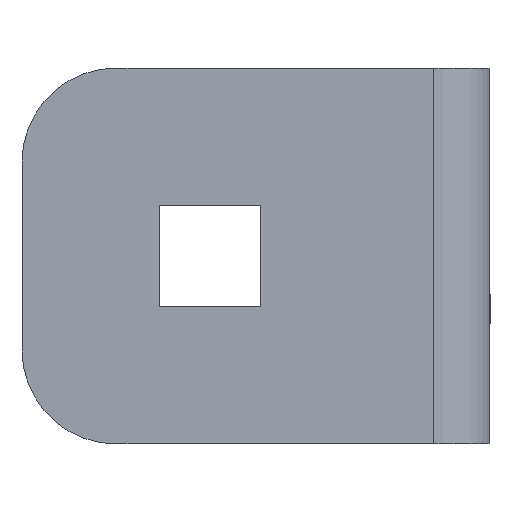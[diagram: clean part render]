
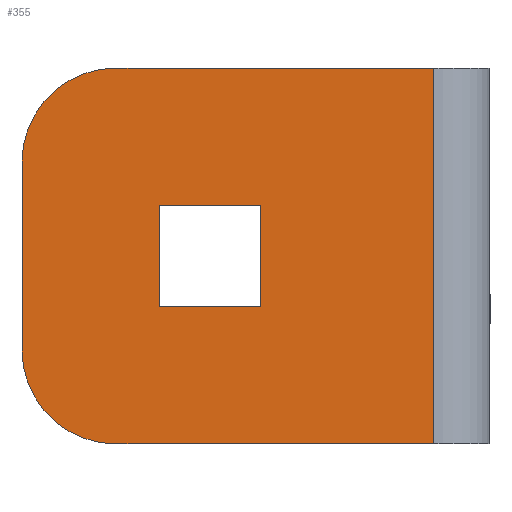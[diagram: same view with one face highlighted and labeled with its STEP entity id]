
A CAD part, front view. The second image highlights one B-rep face of the part: STEP entity #355.
In plain terms, the highlighted planar face has unit normal (0, -1, 0).
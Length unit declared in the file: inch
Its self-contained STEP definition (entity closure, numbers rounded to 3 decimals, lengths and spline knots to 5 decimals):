
#93 = ORIENTED_EDGE ( 'NONE', *, *, #243, .T. ) ;
#94 = EDGE_CURVE ( 'NONE', #142, #143, #2522, .T. ) ;
#95 = EDGE_LOOP ( 'NONE', ( #98, #99, #93, #395, #234, #132 ) ) ;
#96 = ORIENTED_EDGE ( 'NONE', *, *, #97, .F. ) ;
#97 = EDGE_CURVE ( 'NONE', #143, #349, #2532, .T. ) ;
#98 = ORIENTED_EDGE ( 'NONE', *, *, #106, .T. ) ;
#99 = ORIENTED_EDGE ( 'NONE', *, *, #100, .T. ) ;
#100 = EDGE_CURVE ( 'NONE', #237, #101, #2377, .T. ) ;
#101 = VERTEX_POINT ( 'NONE', #2398 ) ;
#105 = ORIENTED_EDGE ( 'NONE', *, *, #351, .F. ) ;
#106 = EDGE_CURVE ( 'NONE', #236, #237, #2536, .T. ) ;
#110 = EDGE_CURVE ( 'NONE', #235, #344, #2443, .T. ) ;
#132 = ORIENTED_EDGE ( 'NONE', *, *, #133, .T. ) ;
#133 = EDGE_CURVE ( 'NONE', #235, #236, #2395, .T. ) ;
#142 = VERTEX_POINT ( 'NONE', #2506 ) ;
#143 = VERTEX_POINT ( 'NONE', #2542 ) ;
#144 = ORIENTED_EDGE ( 'NONE', *, *, #94, .F. ) ;
#234 = ORIENTED_EDGE ( 'NONE', *, *, #110, .F. ) ;
#235 = VERTEX_POINT ( 'NONE', #1107 ) ;
#236 = VERTEX_POINT ( 'NONE', #1045 ) ;
#237 = VERTEX_POINT ( 'NONE', #1077 ) ;
#243 = EDGE_CURVE ( 'NONE', #101, #244, #1040, .T. ) ;
#244 = VERTEX_POINT ( 'NONE', #1145 ) ;
#343 = EDGE_CURVE ( 'NONE', #344, #244, #1259, .T. ) ;
#344 = VERTEX_POINT ( 'NONE', #1194 ) ;
#348 = EDGE_CURVE ( 'NONE', #349, #353, #1201, .T. ) ;
#349 = VERTEX_POINT ( 'NONE', #1318 ) ;
#351 = EDGE_CURVE ( 'NONE', #353, #142, #1267, .T. ) ;
#352 = ORIENTED_EDGE ( 'NONE', *, *, #348, .F. ) ;
#353 = VERTEX_POINT ( 'NONE', #1315 ) ;
#355 = ADVANCED_FACE ( 'NONE', ( #1320, #1319 ), #1211, .F. ) ;
#356 = EDGE_LOOP ( 'NONE', ( #105, #352, #96, #144 ) ) ;
#395 = ORIENTED_EDGE ( 'NONE', *, *, #343, .F. ) ;
#1036 = DIRECTION ( 'NONE',  ( 1., 0., 0. ) ) ;
#1037 = VECTOR ( 'NONE', #1036, 39.37008 ) ;
#1039 = CARTESIAN_POINT ( 'NONE',  ( -1.245, 0., -0.5 ) ) ;
#1040 = LINE ( 'NONE', #1039, #1037 ) ;
#1045 = CARTESIAN_POINT ( 'NONE',  ( -1.245, 0., 0.25 ) ) ;
#1077 = CARTESIAN_POINT ( 'NONE',  ( -1.245, 0., -0.25 ) ) ;
#1107 = CARTESIAN_POINT ( 'NONE',  ( -0.995, 0., 0.5 ) ) ;
#1145 = CARTESIAN_POINT ( 'NONE',  ( -0.15, 0., -0.5 ) ) ;
#1184 = DIRECTION ( 'NONE',  ( 0., 0., -1. ) ) ;
#1187 = DIRECTION ( 'NONE',  ( 0., 1., 0. ) ) ;
#1188 = CARTESIAN_POINT ( 'NONE',  ( -1.245, 0., 0.5 ) ) ;
#1194 = CARTESIAN_POINT ( 'NONE',  ( -0.15, 0., 0.5 ) ) ;
#1196 = CARTESIAN_POINT ( 'NONE',  ( -0.15, 0., 0.5 ) ) ;
#1198 = VECTOR ( 'NONE', #1184, 39.37008 ) ;
#1199 = CARTESIAN_POINT ( 'NONE',  ( -0.88, 0., 0.135 ) ) ;
#1201 = LINE ( 'NONE', #1199, #1304 ) ;
#1211 = PLANE ( 'NONE',  #1212 ) ;
#1212 = AXIS2_PLACEMENT_3D ( 'NONE', #1188, #1187, #1287 ) ;
#1231 = DIRECTION ( 'NONE',  ( 0., 0., -1. ) ) ;
#1259 = LINE ( 'NONE', #1196, #1198 ) ;
#1265 = VECTOR ( 'NONE', #1321, 39.37008 ) ;
#1266 = CARTESIAN_POINT ( 'NONE',  ( -0.88, 0., -0.135 ) ) ;
#1267 = LINE ( 'NONE', #1266, #1265 ) ;
#1287 = DIRECTION ( 'NONE',  ( 0., 0., 1. ) ) ;
#1304 = VECTOR ( 'NONE', #1231, 39.37008 ) ;
#1315 = CARTESIAN_POINT ( 'NONE',  ( -0.88, 0., -0.135 ) ) ;
#1318 = CARTESIAN_POINT ( 'NONE',  ( -0.88, 0., 0.135 ) ) ;
#1319 = FACE_OUTER_BOUND ( 'NONE', #95, .T. ) ;
#1320 = FACE_BOUND ( 'NONE', #356, .T. ) ;
#1321 = DIRECTION ( 'NONE',  ( 1., 0., 0. ) ) ;
#2353 = DIRECTION ( 'NONE',  ( 1., 0., 0. ) ) ;
#2377 = CIRCLE ( 'NONE', #2402, 0.25 ) ;
#2391 = DIRECTION ( 'NONE',  ( 0., 0., 1. ) ) ;
#2392 = DIRECTION ( 'NONE',  ( 0., -1., 0. ) ) ;
#2393 = CARTESIAN_POINT ( 'NONE',  ( -0.995, 0., 0.25 ) ) ;
#2394 = AXIS2_PLACEMENT_3D ( 'NONE', #2393, #2392, #2391 ) ;
#2395 = CIRCLE ( 'NONE', #2394, 0.25 ) ;
#2398 = CARTESIAN_POINT ( 'NONE',  ( -0.995, 0., -0.5 ) ) ;
#2399 = DIRECTION ( 'NONE',  ( 0., 0., 1. ) ) ;
#2400 = DIRECTION ( 'NONE',  ( 0., -1., 0. ) ) ;
#2401 = CARTESIAN_POINT ( 'NONE',  ( -0.995, 0., -0.25 ) ) ;
#2402 = AXIS2_PLACEMENT_3D ( 'NONE', #2401, #2400, #2399 ) ;
#2443 = LINE ( 'NONE', #2471, #2470 ) ;
#2454 = DIRECTION ( 'NONE',  ( 0., 0., 1. ) ) ;
#2455 = VECTOR ( 'NONE', #2454, 39.37008 ) ;
#2456 = CARTESIAN_POINT ( 'NONE',  ( -0.61, 0., 0.135 ) ) ;
#2470 = VECTOR ( 'NONE', #2353, 39.37008 ) ;
#2471 = CARTESIAN_POINT ( 'NONE',  ( -1.245, 0., 0.5 ) ) ;
#2506 = CARTESIAN_POINT ( 'NONE',  ( -0.61, 0., -0.135 ) ) ;
#2522 = LINE ( 'NONE', #2456, #2455 ) ;
#2529 = DIRECTION ( 'NONE',  ( -1., 0., 0. ) ) ;
#2530 = VECTOR ( 'NONE', #2529, 39.37008 ) ;
#2531 = CARTESIAN_POINT ( 'NONE',  ( -0.88, 0., 0.135 ) ) ;
#2532 = LINE ( 'NONE', #2531, #2530 ) ;
#2533 = DIRECTION ( 'NONE',  ( 0., 0., -1. ) ) ;
#2534 = VECTOR ( 'NONE', #2533, 39.37008 ) ;
#2535 = CARTESIAN_POINT ( 'NONE',  ( -1.245, 0., 0.5 ) ) ;
#2536 = LINE ( 'NONE', #2535, #2534 ) ;
#2542 = CARTESIAN_POINT ( 'NONE',  ( -0.61, 0., 0.135 ) ) ;
